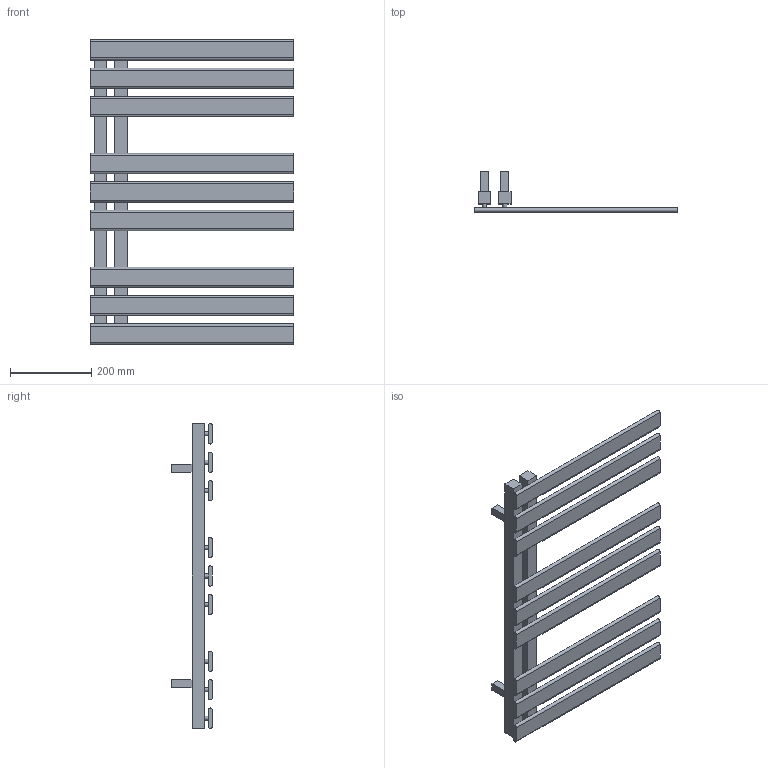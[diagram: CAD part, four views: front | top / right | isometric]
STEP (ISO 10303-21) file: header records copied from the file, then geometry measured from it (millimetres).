
FILE_DESCRIPTION( ( 'Unknown' ), '1' );
FILE_NAME( 'D:/Alplast sp. j/Witryna zespoBu - Projekty/Archiwum/Grzejniki Archiwum/Projekty/DESIGN PROGRAM/BRUNO KOLOR/BRUNO KOLOR 1.stp', 'Unknown', ( 'Unknown' ), ( 'Unknown' ), 'PSStep 10.1', 'Unknown', ' ' );
FILE_SCHEMA( ( 'AUTOMOTIVE_DESIGN { 1 0 10303 214 1 1 1 1 }' ) );
Length unit declared in the file: millimetre
Products named in the file (1): 1
Bounding box: 500 x 100 x 750 mm (x, y, z)
Volume: 3597566.3 mm3; surface area: 712412.8 mm2
Topology: 1 solids, 1 shells, 104 faces, 252 edges, 174 vertices
Faces by surface type: plane 68, cylinder 36
Full cylindrical faces by diameter (mm): 10 x18
Entity records: 3700 total; most frequent: DIRECTION 498, CARTESIAN_POINT 477, ORIENTED_EDGE 432, EDGE_CURVE 216, AXIS2_PLACEMENT_3D 177, EDGE_LOOP 162, VERTEX_POINT 156, LINE 144
